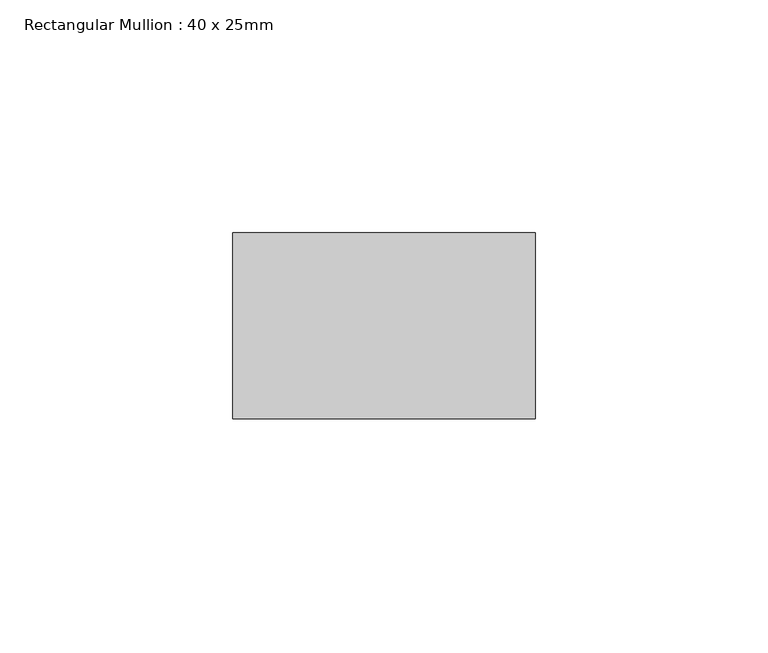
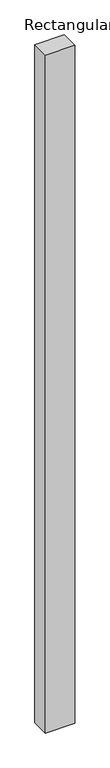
"""IFC4 building model written with IfcOpenShell, lengths in millimetres: member geometry, Rectangular Mullion : 40 x 25mm."""

import ifcopenshell
import ifcopenshell.guid

model = None  # the IFC model being written
_history = None  # IfcOwnerHistory: only IFC2X3 demands one
_inside = {}  # id of a spatial element -> (the spatial element, [elements in it])
_under = {}  # id of a project, library or spatial element -> (it, [spatial elements below it])
_declared = {}  # id of a project -> (the project, [libraries it declares])
_typed = {}  # id of a type object -> (the type object, [elements of that type])
_made_of = {}  # id of a material, layer set ... -> (it, [elements and type objects made of it])


def new_model(schema):
    """Start an empty IFC model of exactly this schema.

    Asked for "IFC4X3", IfcOpenShell would pick the latest addendum, in which some entities
    have other attributes; the version numbers below select the first issue.
    IFC2X3 requires an IfcOwnerHistory on every rooted entity: one is made here for all.
    """
    global model, _history
    if schema == "IFC4X3":
        model = ifcopenshell.file(schema_version=(4, 3, 0, 0))
    else:
        model = ifcopenshell.file(schema=schema)
    _inside.clear()
    _under.clear()
    _declared.clear()
    _typed.clear()
    _made_of.clear()
    _history = None
    if model.schema == "IFC2X3":
        org = make("IfcOrganization", Name="unknown")
        user = make(
            "IfcPersonAndOrganization",
            ThePerson=make("IfcPerson", FamilyName="unknown"),
            TheOrganization=org,
        )
        app = make(
            "IfcApplication",
            ApplicationDeveloper=org,
            Version="unknown",
            ApplicationFullName="unknown",
            ApplicationIdentifier="unknown",
        )
        _history = make(
            "IfcOwnerHistory",
            OwningUser=user,
            OwningApplication=app,
            ChangeAction="ADDED",
            CreationDate=0,
        )
    return model


def make(cls, **values):
    """One entity of the class cls with the attributes given. An attribute that is None is left unset."""
    return model.create_entity(
        cls, **{name: value for name, value in values.items() if value is not None}
    )


def rooted(cls, **values):
    """An entity with a GlobalId (a new one), such as an element, a storey or a relation."""
    return make(cls, GlobalId=ifcopenshell.guid.new(), OwnerHistory=_history, **values)


def si_unit(unit_type, name, prefix=None):
    """IfcSIUnit, for example si_unit("LENGTHUNIT", "METRE", prefix="MILLI")."""
    return make("IfcSIUnit", UnitType=unit_type, Prefix=prefix, Name=name)


def assignment(units):
    """IfcUnitAssignment: the units of a project."""
    return None if units is None else make("IfcUnitAssignment", Units=units)


def point(xyz):
    """IfcCartesianPoint."""
    return None if xyz is None else make("IfcCartesianPoint", Coordinates=xyz)


def direction(xyz):
    """IfcDirection."""
    return None if xyz is None else make("IfcDirection", DirectionRatios=xyz)


def frame(location, z_axis=None, x_axis=None):
    """IfcAxis2Placement3D, a coordinate frame: its origin and axes. An axis left out is left unset."""
    return make(
        "IfcAxis2Placement3D",
        Location=point(location),
        Axis=direction(z_axis),
        RefDirection=direction(x_axis),
    )


def origin():
    """The frame at (0, 0, 0) with its axes left unset."""
    return frame((0.0, 0.0, 0.0))


def place(relative_to, where):
    """IfcLocalPlacement: puts the frame where relative to a parent placement (None: the world)."""
    return make(
        "IfcLocalPlacement", PlacementRelTo=relative_to, RelativePlacement=where
    )


def context(
    kind, dimensions, precision=None, world=None, true_north=None, identifier=None
):
    """IfcGeometricRepresentationContext, for example the 3D "Model" context."""
    return make(
        "IfcGeometricRepresentationContext",
        ContextIdentifier=identifier,
        ContextType=kind,
        CoordinateSpaceDimension=dimensions,
        Precision=precision,
        WorldCoordinateSystem=world,
        TrueNorth=true_north,
    )


def project(units=None, contexts=None):
    """IfcProject with its units and contexts."""
    return rooted(
        "IfcProject",
        Name="project",
        RepresentationContexts=contexts,
        UnitsInContext=assignment(units),
    )


def spatial(cls, under=None, at=None, **own):
    """A site, building, storey or space (cls), placed at a placement, below another one or the project."""
    s = rooted(cls, ObjectPlacement=at, **own)
    if under is not None:
        _under.setdefault(under.id(), (under, []))[1].append(s)
    return s


def polyline(points):
    """IfcPolyline through the points."""
    return make("IfcPolyline", Points=[point(p) for p in points])


def outline(outer, holes=None, kind="AREA"):
    """IfcArbitraryClosedProfileDef: a profile drawn as a closed curve; with holes, ...WithVoids."""
    if holes is None:
        return make("IfcArbitraryClosedProfileDef", ProfileType=kind, OuterCurve=outer)
    return make(
        "IfcArbitraryProfileDefWithVoids",
        ProfileType=kind,
        OuterCurve=outer,
        InnerCurves=holes,
    )


def extrude(swept, where, along, depth):
    """IfcExtrudedAreaSolid: the profile swept, set in the frame where, extruded along a direction by depth."""
    return make(
        "IfcExtrudedAreaSolid",
        SweptArea=swept,
        Position=where,
        ExtrudedDirection=direction(along),
        Depth=depth,
    )


def shape(context_of_items, identifier, shape_type, items):
    """IfcShapeRepresentation: the items that make up one representation, for example the "Body"."""
    return make(
        "IfcShapeRepresentation",
        ContextOfItems=context_of_items,
        RepresentationIdentifier=identifier,
        RepresentationType=shape_type,
        Items=items,
    )


def source(mapping_origin, context_of_items, identifier, shape_type, items):
    """IfcRepresentationMap: a shape defined once, which mapped items show again and again."""
    return make(
        "IfcRepresentationMap",
        MappingOrigin=mapping_origin,
        MappedRepresentation=shape(context_of_items, identifier, shape_type, items),
    )


def transform(
    local_origin,
    x_axis=None,
    y_axis=None,
    z_axis=None,
    scale=None,
    scale2=None,
    scale3=None,
    uniform=True,
):
    """IfcCartesianTransformationOperator3D, or its non-uniform kind. x_axis, y_axis, z_axis: its Axis1, 2, 3."""
    if uniform:
        return make(
            "IfcCartesianTransformationOperator3D",
            Axis1=direction(x_axis),
            Axis2=direction(y_axis),
            LocalOrigin=point(local_origin),
            Scale=scale,
            Axis3=direction(z_axis),
        )
    return make(
        "IfcCartesianTransformationOperator3DnonUniform",
        Axis1=direction(x_axis),
        Axis2=direction(y_axis),
        LocalOrigin=point(local_origin),
        Scale=scale,
        Axis3=direction(z_axis),
        Scale2=scale2,
        Scale3=scale3,
    )


def mapped(mapping_source, mapping_target):
    """IfcMappedItem: shows the shape of a source again, moved by a transform."""
    return make(
        "IfcMappedItem", MappingSource=mapping_source, MappingTarget=mapping_target
    )


def made_of(thing, what):
    """Note that an element or type object is made of a material, layer set ...; save() writes the relation."""
    if what is not None:
        _made_of.setdefault(what.id(), (what, []))[1].append(thing)
    return thing


def element(
    cls,
    number,
    at=None,
    inside=None,
    cuts=None,
    type_object=None,
    material=None,
    context=None,
    identifier="Body",
    shape_type=None,
    held_by="IfcProductDefinitionShape",
    body=None,
    shapes=None,
    **own,
):
    """One element of the class cls, such as IfcWall. Its Tag is "e" and its number.

    at: its placement. inside: the storey or other place that contains it. cuts: it is an
    opening in that element (IfcRelVoidsElement). A single representation is given by context,
    identifier, shape_type and body (its items); several are given by shapes. held_by: the class
    of the entity that holds the representations. save() writes the other relations.
    """
    e = rooted(cls, Tag="e%d" % number, ObjectPlacement=at, **own)
    if body is not None:
        shapes = [shape(context, identifier, shape_type, body)]
    if shapes is not None:
        e.Representation = make(held_by, Representations=shapes)
    if inside is not None:
        _inside.setdefault(inside.id(), (inside, []))[1].append(e)
    if cuts is not None:
        rooted(
            "IfcRelVoidsElement", RelatingBuildingElement=cuts, RelatedOpeningElement=e
        )
    if type_object is not None:
        _typed.setdefault(type_object.id(), (type_object, []))[1].append(e)
    return made_of(e, material)


def aggregate(whole, parts):
    """IfcRelAggregates: a whole, such as a stair, and the parts it consists of."""
    return rooted("IfcRelAggregates", RelatingObject=whole, RelatedObjects=parts)


def save(model, path):
    """Write the relations noted so far, then the file.

    IfcRelAggregates (storeys below a building ...), IfcRelContainedInSpatialStructure (elements
    in a storey), IfcRelDefinesByType, IfcRelAssociatesMaterial and IfcRelDeclares: one each for
    every whole, place, type object, material and project.
    """
    for whole, parts in _under.values():
        aggregate(whole, parts)
    for where, things in _inside.values():
        rooted(
            "IfcRelContainedInSpatialStructure",
            RelatedElements=things,
            RelatingStructure=where,
        )
    for kind, things in _typed.values():
        rooted("IfcRelDefinesByType", RelatedObjects=things, RelatingType=kind)
    for what, things in _made_of.values():
        rooted("IfcRelAssociatesMaterial", RelatedObjects=things, RelatingMaterial=what)
    for by, libraries in _declared.values():
        rooted("IfcRelDeclares", RelatingContext=by, RelatedDefinitions=libraries)
    model.write(path)


def rectangular_mullion_40_x_25mm_4ea19de3(model_context):
    return source(origin(), model_context, "Body", "SweptSolid", [
        extrude(outline(polyline([(40.0, -20.0), (40.0, -60.0), (-25.0, -60.0), (-25.0, -20.0), (40.0, -20.0)])), frame((0.0, 0.0, -1575.7462372), z_axis=(0.0, 0.0, 1.0), x_axis=(1.0, 0.0, 0.0)), (0.0, 0.0, 1.0), 1575.7462372),
    ])


if __name__ == "__main__":
    model = new_model("IFC4")
    model_context = context("Model", 3, world=origin())
    ifc_project = project(units=[si_unit("LENGTHUNIT", "METRE", prefix="MILLI")], contexts=[model_context])
    site = spatial("IfcSite", under=ifc_project)
    building = spatial("IfcBuilding", under=site)
    placement = place(None, origin())
    rectangular_mullion_40_x_25mm_shape = rectangular_mullion_40_x_25mm_4ea19de3(model_context)
    element("IfcMember", 1, ObjectType="Rectangular Mullion : 40 x 25mm", at=placement, inside=building, context=model_context, shape_type="MappedRepresentation", body=[
        mapped(rectangular_mullion_40_x_25mm_shape, transform((0.0, 0.0, 0.0), x_axis=(1.0, 0.0, 0.0), y_axis=(0.0, 1.0, 0.0), z_axis=(0.0, 0.0, 1.0))),
    ])
    save(model, "model.ifc")
